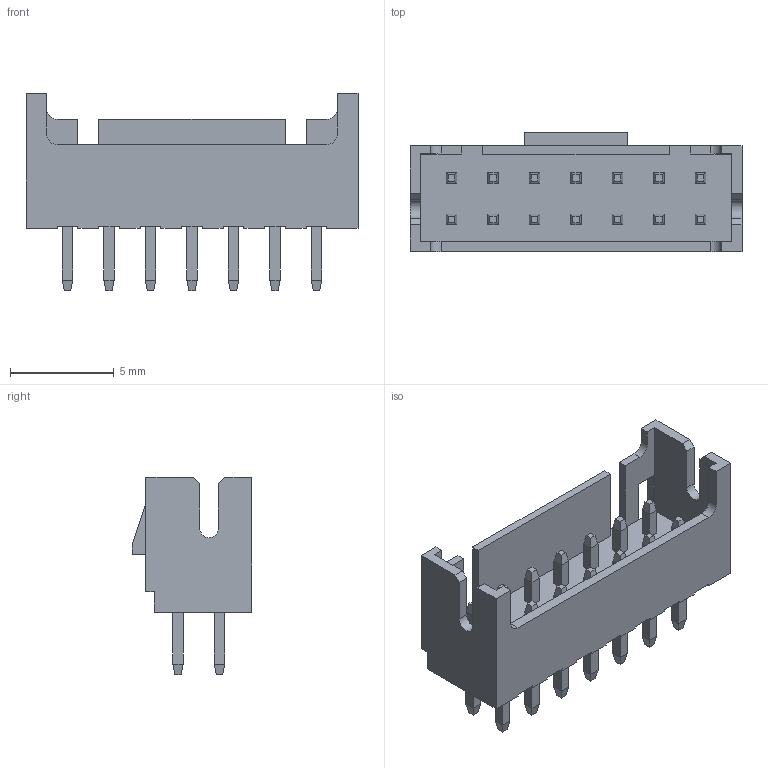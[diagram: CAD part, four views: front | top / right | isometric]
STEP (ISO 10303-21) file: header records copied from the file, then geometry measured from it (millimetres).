
FILE_DESCRIPTION(('CATIA V5 STEP Exchange'),'2;1');
FILE_NAME('Z:\3D文件\小覃\条形连接器-小黄\PHDS\2xNA\HC-PHDS-2x7A-05(2.00 双排 直针 带扣-HCTL).stp','2025-04-23T02:24:36+00:00',('none'),('none'),'CATIA Version 5 Release 20 GA (IN-10)','CATIA V5 STEP AP203','none');
FILE_SCHEMA(('CONFIG_CONTROL_DESIGN'));
Length unit declared in the file: millimetre
Products named in the file (1): Part2
Bounding box: 16 x 5.75 x 9.5 mm (x, y, z)
Volume: 201.1 mm3; surface area: 645.8 mm2
Topology: 1 solids, 1 shells, 337 faces, 815 edges, 504 vertices
Faces by surface type: plane 331, cylinder 6
Entity records: 8365 total; most frequent: ORIENTED_EDGE 1630, CARTESIAN_POINT 1427, DIRECTION 1029, EDGE_CURVE 815, VECTOR 803, LINE 803, VERTEX_POINT 504, EDGE_LOOP 365
